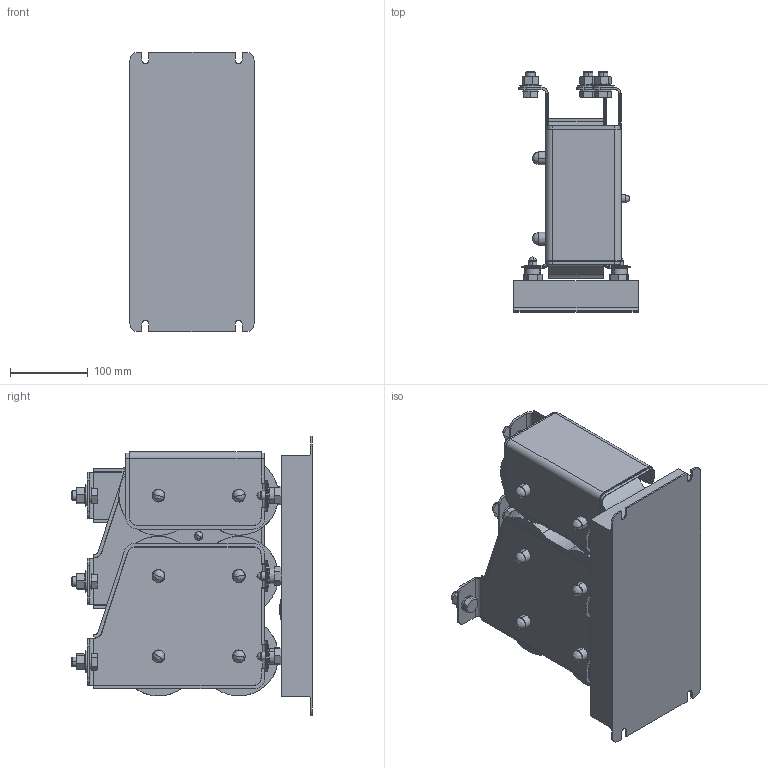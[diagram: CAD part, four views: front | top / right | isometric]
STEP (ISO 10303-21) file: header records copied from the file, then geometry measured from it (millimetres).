
FILE_DESCRIPTION (( 'STEP AP214' ), '1' );
FILE_NAME ('00Z2G24-AXX1.STEP', '2026-08-05T09:21:21', ( '' ), ( '' ), 'SwSTEP 2.0', 'SolidWorks 2025', '' );
FILE_SCHEMA (( 'AUTOMOTIVE_DESIGN' ));
Length unit declared in the file: millimetre
Products named in the file (3): 10014308_000; 00Z2G24-AXX1; Kundenmodell 00Z2G24-AXX1^10085431_000
Assembly tree (2 placements, depth 2):
  00Z2G24-AXX1
    Kundenmodell 00Z2G24-AXX1^10085431_000
    10014308_000
Bounding box: 160 x 309.4 x 360 mm (x, y, z)
Volume: 6189040.5 mm3; surface area: 611005.6 mm2
Topology: 2 solids, 5 shells, 1555 faces, 3861 edges, 2328 vertices
Faces by surface type: cylinder 664, plane 456, torus 266, cone 120, bspline 49
Entity records: 47811 total; most frequent: CARTESIAN_POINT 10424, DIRECTION 8319, ORIENTED_EDGE 7650, EDGE_CURVE 3825, AXIS2_PLACEMENT_3D 3285, VERTEX_POINT 2328, CIRCLE 1774, VECTOR 1749
